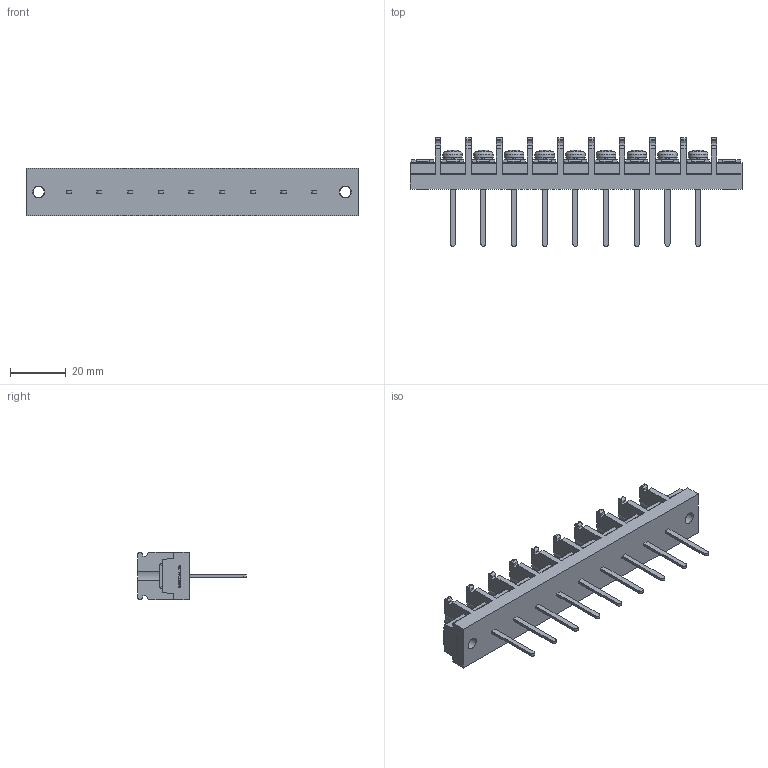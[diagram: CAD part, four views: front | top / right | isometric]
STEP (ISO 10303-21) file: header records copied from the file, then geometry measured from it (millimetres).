
FILE_DESCRIPTION(/* description */ ('Alibre Inc.'),/* implementation_level */ '2;1');
FILE_NAME(/* name */ 'export0',/* time_stamp */ '2015-10-20T07:57:24+09:00',/* author */ (''),/* organization */ (''),/* preprocessor_version */ 'ST-DEVELOPER v14',/* originating_system */ 'Alibre',/* authorisation */ '');
FILE_SCHEMA (('CONFIG_CONTROL_DESIGN'));
Length unit declared in the file: centimetre
Products named in the file (1): ID_1
Bounding box: 119 x 39 x 17 mm (x, y, z)
Volume: 21823.8 mm3; surface area: 12900.2 mm2
Topology: 1 solids, 1 shells, 1119 faces, 3113 edges, 2067 vertices
Faces by surface type: plane 786, cylinder 166, bspline 104, cone 36, torus 18, sphere 9
Full cylindrical faces by diameter (mm): 4 x11, 4.2 x2, 6.5 x9, 7 x9
Entity records: 34695 total; most frequent: CARTESIAN_POINT 7394, ORIENTED_EDGE 6088, DIRECTION 4572, EDGE_CURVE 3044, VECTOR 2148, LINE 2148, VERTEX_POINT 2038, AXIS2_PLACEMENT_3D 1600
